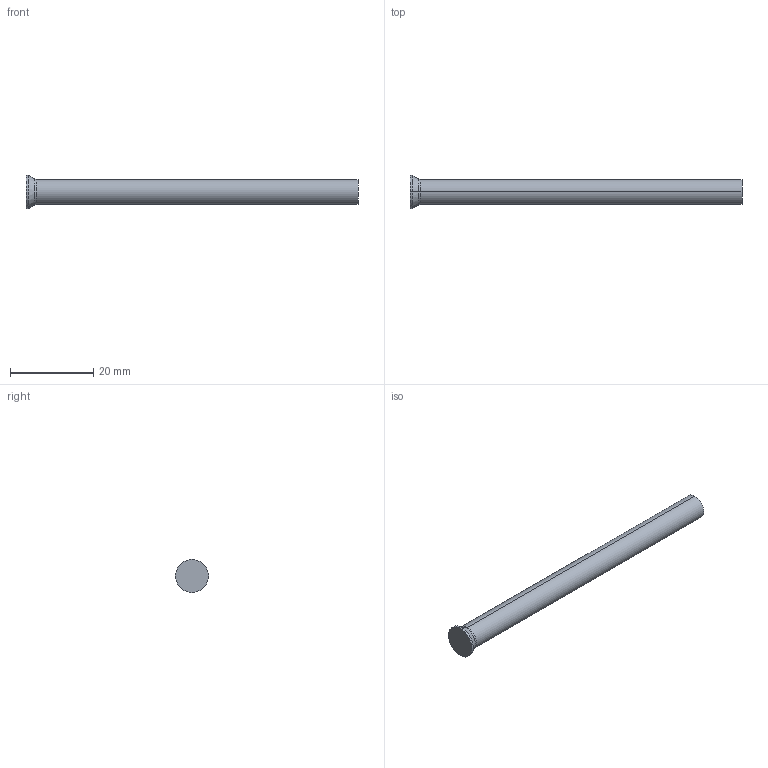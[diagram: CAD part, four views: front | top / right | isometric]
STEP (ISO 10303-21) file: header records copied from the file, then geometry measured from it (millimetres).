
FILE_DESCRIPTION (( 'STEP AP214' ), '1' );
FILE_NAME ('D-6x80.STEP', '2020-06-08T17:10:06', ( 'August' ), ( '' ), 'SwSTEP 2.0', 'SolidWorks 2018', '' );
FILE_SCHEMA (( 'AUTOMOTIVE_DESIGN' ));
Length unit declared in the file: millimetre
Products named in the file (1): D-6x80
Bounding box: 80 x 8 x 8 mm (x, y, z)
Volume: 2291.2 mm3; surface area: 1600.8 mm2
Topology: 1 solids, 1 shells, 10 faces, 18 edges, 10 vertices
Faces by surface type: cylinder 4, torus 2, cone 2, plane 2
Entity records: 280 total; most frequent: DIRECTION 52, CARTESIAN_POINT 39, ORIENTED_EDGE 36, AXIS2_PLACEMENT_3D 23, EDGE_CURVE 18, CIRCLE 12, ADVANCED_FACE 10, FACE_OUTER_BOUND 10
